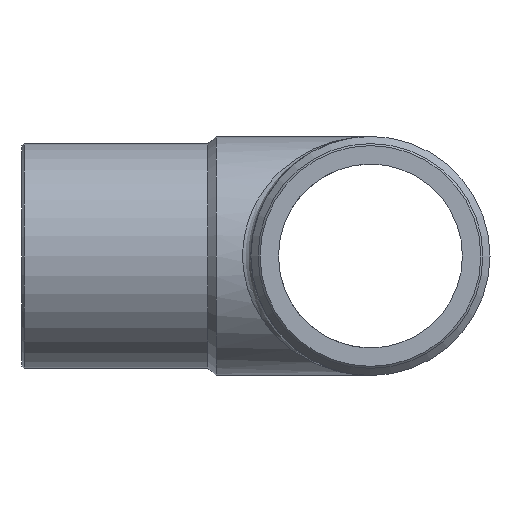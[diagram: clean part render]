
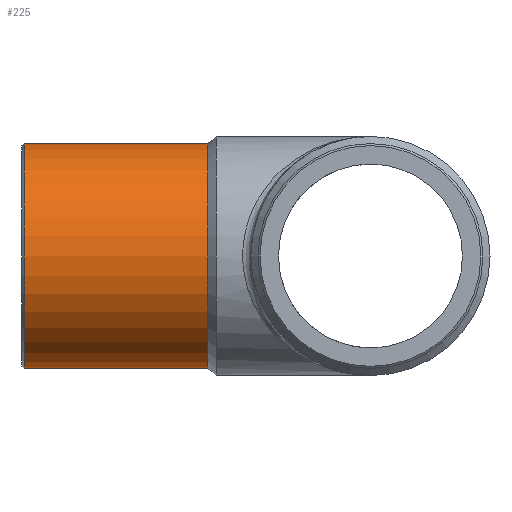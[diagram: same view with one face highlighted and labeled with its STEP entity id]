
A CAD part, left-side view. The second image highlights one B-rep face of the part: STEP entity #225.
In plain terms, the highlighted cylindrical face has radius 55 mm (diameter 110 mm), a full revolution.
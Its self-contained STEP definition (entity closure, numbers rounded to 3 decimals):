
#44=CIRCLE('',#275,55.);
#45=CIRCLE('',#277,55.);
#76=ORIENTED_EDGE('',*,*,#108,.T.);
#77=ORIENTED_EDGE('',*,*,#107,.F.);
#107=EDGE_CURVE('',#126,#126,#44,.T.);
#108=EDGE_CURVE('',#127,#127,#45,.F.);
#126=VERTEX_POINT('',#407);
#127=VERTEX_POINT('',#410);
#160=EDGE_LOOP('',(#76));
#161=EDGE_LOOP('',(#77));
#196=FACE_BOUND('',#160,.T.);
#197=FACE_BOUND('',#161,.T.);
#212=CYLINDRICAL_SURFACE('',#276,55.);
#225=ADVANCED_FACE('',(#196,#197),#212,.T.);
#275=AXIS2_PLACEMENT_3D('',#406,#345,#346);
#276=AXIS2_PLACEMENT_3D('',#408,#347,#348);
#277=AXIS2_PLACEMENT_3D('',#409,#349,#350);
#345=DIRECTION('',(0.,-1.,0.));
#346=DIRECTION('',(1.,0.,0.));
#347=DIRECTION('',(0.,-1.,0.));
#348=DIRECTION('',(1.,0.,0.));
#349=DIRECTION('',(0.,1.,0.));
#350=DIRECTION('',(-1.,0.,0.));
#406=CARTESIAN_POINT('',(0.,79.5,0.));
#407=CARTESIAN_POINT('',(55.,79.5,0.));
#408=CARTESIAN_POINT('',(0.,0.,0.));
#409=CARTESIAN_POINT('',(0.,169.5,0.));
#410=CARTESIAN_POINT('',(-55.,169.5,0.));
